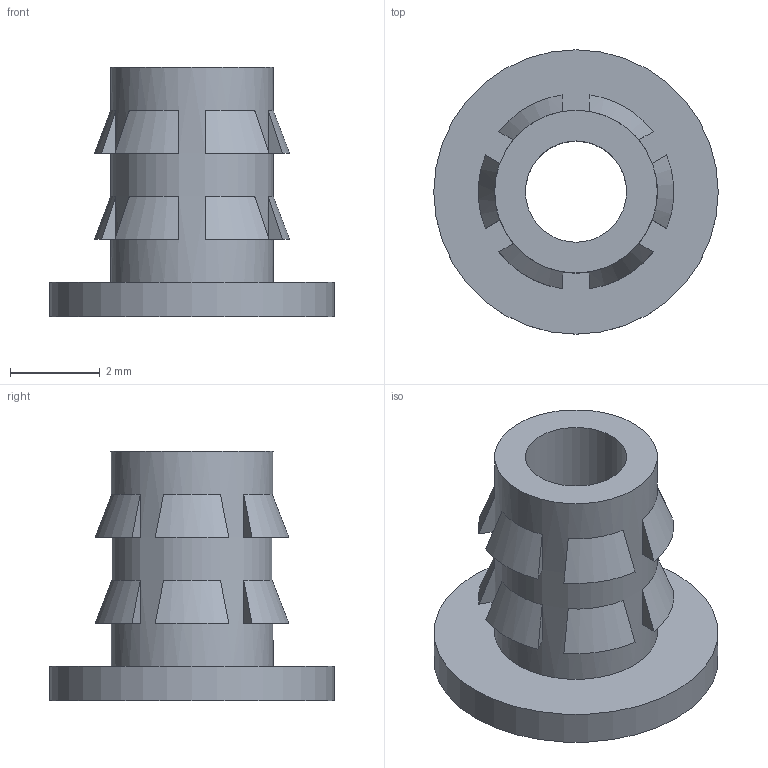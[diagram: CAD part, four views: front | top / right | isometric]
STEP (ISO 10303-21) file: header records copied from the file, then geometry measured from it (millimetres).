
FILE_DESCRIPTION (( 'STEP AP214' ), '1' );
FILE_NAME ('flanged insert 4-40.STEP', '2017-08-09T04:07:38', ( '微软用户' ), ( '微软中国' ), 'SwSTEP 2.0', 'SolidWorks 2015', '' );
FILE_SCHEMA (( 'AUTOMOTIVE_DESIGN' ));
Length unit declared in the file: millimetre
Products named in the file (1): flanged insert 4-40
Bounding box: 6.35 x 6.35 x 5.56 mm (x, y, z)
Volume: 53.3 mm3; surface area: 177.6 mm2
Topology: 1 solids, 1 shells, 55 faces, 125 edges, 83 vertices
Faces by surface type: plane 39, torus 12, cylinder 3, cone 1
Full cylindrical faces by diameter (mm): 2.261 x1, 3.632 x1, 6.35 x1
Entity records: 1566 total; most frequent: CARTESIAN_POINT 338, DIRECTION 246, ORIENTED_EDGE 230, EDGE_CURVE 115, AXIS2_PLACEMENT_3D 99, VERTEX_POINT 79, EDGE_LOOP 74, FACE_OUTER_BOUND 58
